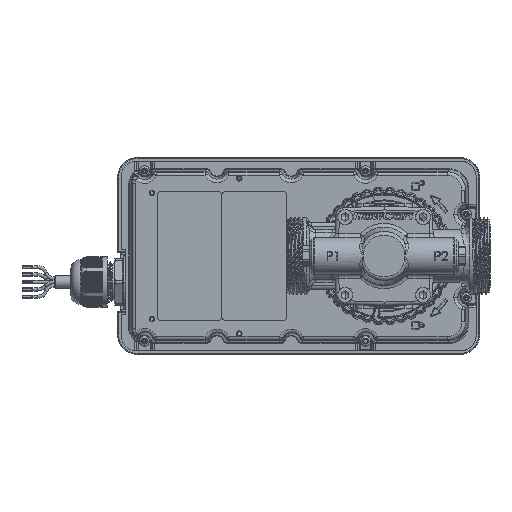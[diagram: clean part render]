
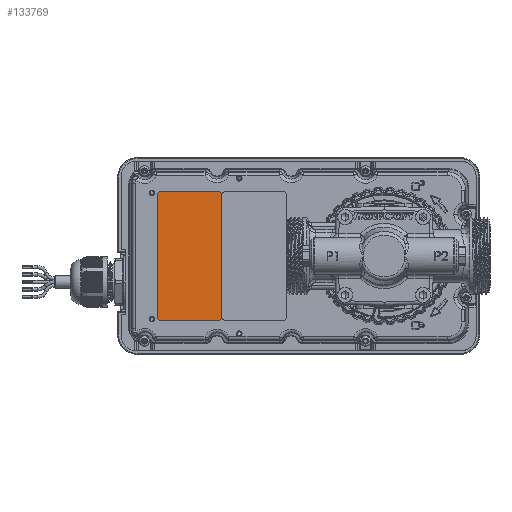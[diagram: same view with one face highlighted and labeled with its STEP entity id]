
A CAD part, front view. The second image highlights one B-rep face of the part: STEP entity #133769.
In plain terms, the highlighted planar face has unit normal (0, -1, 0).
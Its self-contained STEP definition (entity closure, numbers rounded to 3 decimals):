
#3080 = EDGE_CURVE ( 'NONE', #22977, #98953, #100471, .T. ) ;
#5158 = ORIENTED_EDGE ( 'NONE', *, *, #35412, .T. ) ;
#5973 = CARTESIAN_POINT ( 'NONE',  ( -89.599, 145.698, 34.925 ) ) ;
#11348 = DIRECTION ( 'NONE',  ( -1., 0., 0. ) ) ;
#12763 = LINE ( 'NONE', #24325, #19406 ) ;
#13307 = VECTOR ( 'NONE', #26848, 1000. ) ;
#14428 = CARTESIAN_POINT ( 'NONE',  ( -89.599, 145.698, -32.639 ) ) ;
#14668 = ORIENTED_EDGE ( 'NONE', *, *, #53033, .T. ) ;
#15633 = AXIS2_PLACEMENT_3D ( 'NONE', #14428, #92459, #112764 ) ;
#15645 = DIRECTION ( 'NONE',  ( 0., 0., -1. ) ) ;
#18086 = CARTESIAN_POINT ( 'NONE',  ( -122.237, 145.698, 32.639 ) ) ;
#19406 = VECTOR ( 'NONE', #11348, 1000. ) ;
#19563 = CIRCLE ( 'NONE', #79469, 2.286 ) ;
#19651 = CARTESIAN_POINT ( 'NONE',  ( -87.313, 145.698, 32.639 ) ) ;
#22337 = DIRECTION ( 'NONE',  ( 0., 0., 1. ) ) ;
#22795 = DIRECTION ( 'NONE',  ( -1., 0., 0. ) ) ;
#22977 = VERTEX_POINT ( 'NONE', #120987 ) ;
#24325 = CARTESIAN_POINT ( 'NONE',  ( -89.599, 145.698, 34.925 ) ) ;
#26848 = DIRECTION ( 'NONE',  ( 1., 0., 0. ) ) ;
#27939 = DIRECTION ( 'NONE',  ( 0., -1., 0. ) ) ;
#29446 = DIRECTION ( 'NONE',  ( 0., 0., 1. ) ) ;
#30800 = EDGE_CURVE ( 'NONE', #50849, #45492, #136676, .T. ) ;
#35412 = EDGE_CURVE ( 'NONE', #61013, #37124, #70619, .T. ) ;
#36062 = ORIENTED_EDGE ( 'NONE', *, *, #30800, .T. ) ;
#37124 = VERTEX_POINT ( 'NONE', #57327 ) ;
#38136 = DIRECTION ( 'NONE',  ( 0., -1., 0. ) ) ;
#38807 = CARTESIAN_POINT ( 'NONE',  ( -89.599, 145.698, 32.639 ) ) ;
#39158 = CARTESIAN_POINT ( 'NONE',  ( -119.952, 145.698, -34.925 ) ) ;
#45492 = VERTEX_POINT ( 'NONE', #121707 ) ;
#50849 = VERTEX_POINT ( 'NONE', #119634 ) ;
#51326 = AXIS2_PLACEMENT_3D ( 'NONE', #122066, #121355, #22337 ) ;
#53033 = EDGE_CURVE ( 'NONE', #98953, #58966, #19563, .T. ) ;
#54977 = EDGE_CURVE ( 'NONE', #132798, #61013, #135159, .T. ) ;
#56104 = CARTESIAN_POINT ( 'NONE',  ( -119.952, 145.698, -32.639 ) ) ;
#57327 = CARTESIAN_POINT ( 'NONE',  ( -122.238, 145.698, -32.639 ) ) ;
#58966 = VERTEX_POINT ( 'NONE', #5973 ) ;
#60911 = AXIS2_PLACEMENT_3D ( 'NONE', #56104, #90662, #22795 ) ;
#61013 = VERTEX_POINT ( 'NONE', #18086 ) ;
#65347 = EDGE_CURVE ( 'NONE', #45492, #22977, #91897, .T. ) ;
#65872 = CARTESIAN_POINT ( 'NONE',  ( -87.313, 145.698, -32.639 ) ) ;
#70619 = LINE ( 'NONE', #114684, #112870 ) ;
#72012 = DIRECTION ( 'NONE',  ( 1., 0., 0. ) ) ;
#74643 = FACE_OUTER_BOUND ( 'NONE', #139795, .T. ) ;
#75583 = EDGE_CURVE ( 'NONE', #58966, #132798, #12763, .T. ) ;
#79469 = AXIS2_PLACEMENT_3D ( 'NONE', #38807, #27939, #72012 ) ;
#79841 = EDGE_CURVE ( 'NONE', #37124, #50849, #120902, .T. ) ;
#89631 = DIRECTION ( 'NONE',  ( 0., 0., 1. ) ) ;
#90662 = DIRECTION ( 'NONE',  ( 0., -1., 0. ) ) ;
#91897 = CIRCLE ( 'NONE', #15633, 2.286 ) ;
#92459 = DIRECTION ( 'NONE',  ( 0., -1., 0. ) ) ;
#96324 = VECTOR ( 'NONE', #89631, 1000. ) ;
#97221 = CARTESIAN_POINT ( 'NONE',  ( -119.952, 145.698, 34.925 ) ) ;
#98953 = VERTEX_POINT ( 'NONE', #19651 ) ;
#99589 = ORIENTED_EDGE ( 'NONE', *, *, #3080, .T. ) ;
#100471 = LINE ( 'NONE', #65872, #96324 ) ;
#100504 = ORIENTED_EDGE ( 'NONE', *, *, #54977, .T. ) ;
#107407 = ORIENTED_EDGE ( 'NONE', *, *, #75583, .T. ) ;
#109818 = AXIS2_PLACEMENT_3D ( 'NONE', #118278, #38136, #29446 ) ;
#112764 = DIRECTION ( 'NONE',  ( 0., 0., -1. ) ) ;
#112870 = VECTOR ( 'NONE', #15645, 1000. ) ;
#114202 = ORIENTED_EDGE ( 'NONE', *, *, #79841, .T. ) ;
#114684 = CARTESIAN_POINT ( 'NONE',  ( -122.237, 145.698, 32.639 ) ) ;
#116081 = ORIENTED_EDGE ( 'NONE', *, *, #65347, .T. ) ;
#118278 = CARTESIAN_POINT ( 'NONE',  ( -119.952, 145.698, 32.639 ) ) ;
#119634 = CARTESIAN_POINT ( 'NONE',  ( -119.952, 145.698, -34.925 ) ) ;
#120902 = CIRCLE ( 'NONE', #60911, 2.286 ) ;
#120987 = CARTESIAN_POINT ( 'NONE',  ( -87.313, 145.698, -32.639 ) ) ;
#121355 = DIRECTION ( 'NONE',  ( 0., -1., 0. ) ) ;
#121707 = CARTESIAN_POINT ( 'NONE',  ( -89.599, 145.698, -34.925 ) ) ;
#122066 = CARTESIAN_POINT ( 'NONE',  ( -104.775, 145.698, 0. ) ) ;
#132798 = VERTEX_POINT ( 'NONE', #97221 ) ;
#133769 = ADVANCED_FACE ( 'NONE', ( #74643 ), #139645, .T. ) ;
#135159 = CIRCLE ( 'NONE', #109818, 2.286 ) ;
#136676 = LINE ( 'NONE', #39158, #13307 ) ;
#139645 = PLANE ( 'NONE',  #51326 ) ;
#139795 = EDGE_LOOP ( 'NONE', ( #107407, #100504, #5158, #114202, #36062, #116081, #99589, #14668 ) ) ;
